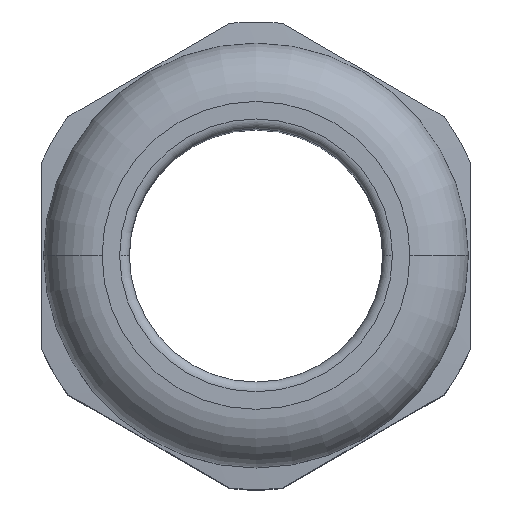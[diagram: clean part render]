
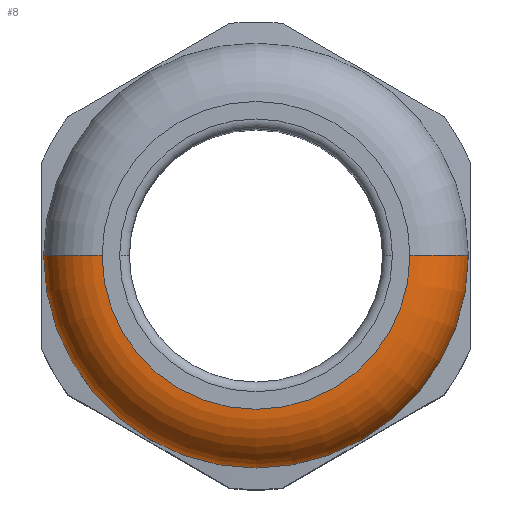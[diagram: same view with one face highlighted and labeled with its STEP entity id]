
A CAD part, top view. The second image highlights one B-rep face of the part: STEP entity #8.
In plain terms, the highlighted toroidal (fillet/blend) face has major radius 7.9 mm and minor radius 3 mm.
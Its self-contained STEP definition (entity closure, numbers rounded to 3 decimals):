
#5 = ORIENTED_EDGE ( 'NONE', *, *, #2566, .F. ) ;
#6 = ORIENTED_EDGE ( 'NONE', *, *, #9, .T. ) ;
#7 = EDGE_LOOP ( 'NONE', ( #5, #6, #234, #155 ) ) ;
#8 = ADVANCED_FACE ( 'NONE', ( #736 ), #731, .T. ) ;
#9 = EDGE_CURVE ( 'NONE', #2719, #2714, #726, .T. ) ;
#25 = EDGE_CURVE ( 'NONE', #2627, #2639, #799, .T. ) ;
#155 = ORIENTED_EDGE ( 'NONE', *, *, #25, .F. ) ;
#234 = ORIENTED_EDGE ( 'NONE', *, *, #2717, .T. ) ;
#726 = CIRCLE ( 'NONE', #781, 7.9 ) ;
#727 = DIRECTION ( 'NONE',  ( -1., 0., 0. ) ) ;
#728 = DIRECTION ( 'NONE',  ( 0., 0., -1. ) ) ;
#729 = CARTESIAN_POINT ( 'NONE',  ( 0., 0., 34.5 ) ) ;
#730 = AXIS2_PLACEMENT_3D ( 'NONE', #729, #728, #727 ) ;
#731 = TOROIDAL_SURFACE ( 'NONE', #730, 7.9, 3. ) ;
#736 = FACE_OUTER_BOUND ( 'NONE', #7, .T. ) ;
#778 = DIRECTION ( 'NONE',  ( -1., 0., 0. ) ) ;
#779 = DIRECTION ( 'NONE',  ( 0., 0., -1. ) ) ;
#780 = CARTESIAN_POINT ( 'NONE',  ( 0., 0., 37.5 ) ) ;
#781 = AXIS2_PLACEMENT_3D ( 'NONE', #780, #779, #778 ) ;
#796 = DIRECTION ( 'NONE',  ( -1., 0., 0. ) ) ;
#797 = DIRECTION ( 'NONE',  ( 0., 0., -1. ) ) ;
#798 = AXIS2_PLACEMENT_3D ( 'NONE', #897, #797, #796 ) ;
#799 = CIRCLE ( 'NONE', #798, 10.9 ) ;
#897 = CARTESIAN_POINT ( 'NONE',  ( 0., 0., 34.5 ) ) ;
#2034 = CARTESIAN_POINT ( 'NONE',  ( 10.9, 0., 34.5 ) ) ;
#2074 = CARTESIAN_POINT ( 'NONE',  ( -10.9, 0., 34.5 ) ) ;
#2197 = DIRECTION ( 'NONE',  ( -1., 0., 0. ) ) ;
#2207 = DIRECTION ( 'NONE',  ( 0., 1., 0. ) ) ;
#2208 = CARTESIAN_POINT ( 'NONE',  ( 7.9, 0., 34.5 ) ) ;
#2209 = AXIS2_PLACEMENT_3D ( 'NONE', #2208, #2207, #2197 ) ;
#2210 = CIRCLE ( 'NONE', #2209, 3. ) ;
#2412 = CARTESIAN_POINT ( 'NONE',  ( 7.9, 0., 37.5 ) ) ;
#2413 = DIRECTION ( 'NONE',  ( 0., 0., -1. ) ) ;
#2414 = DIRECTION ( 'NONE',  ( 0., -1., 0. ) ) ;
#2415 = CARTESIAN_POINT ( 'NONE',  ( -7.9, 0., 34.5 ) ) ;
#2416 = AXIS2_PLACEMENT_3D ( 'NONE', #2415, #2414, #2413 ) ;
#2417 = CIRCLE ( 'NONE', #2416, 3. ) ;
#2434 = CARTESIAN_POINT ( 'NONE',  ( -7.9, 0., 37.5 ) ) ;
#2566 = EDGE_CURVE ( 'NONE', #2719, #2627, #2210, .T. ) ;
#2627 = VERTEX_POINT ( 'NONE', #2034 ) ;
#2639 = VERTEX_POINT ( 'NONE', #2074 ) ;
#2714 = VERTEX_POINT ( 'NONE', #2434 ) ;
#2717 = EDGE_CURVE ( 'NONE', #2714, #2639, #2417, .T. ) ;
#2719 = VERTEX_POINT ( 'NONE', #2412 ) ;
